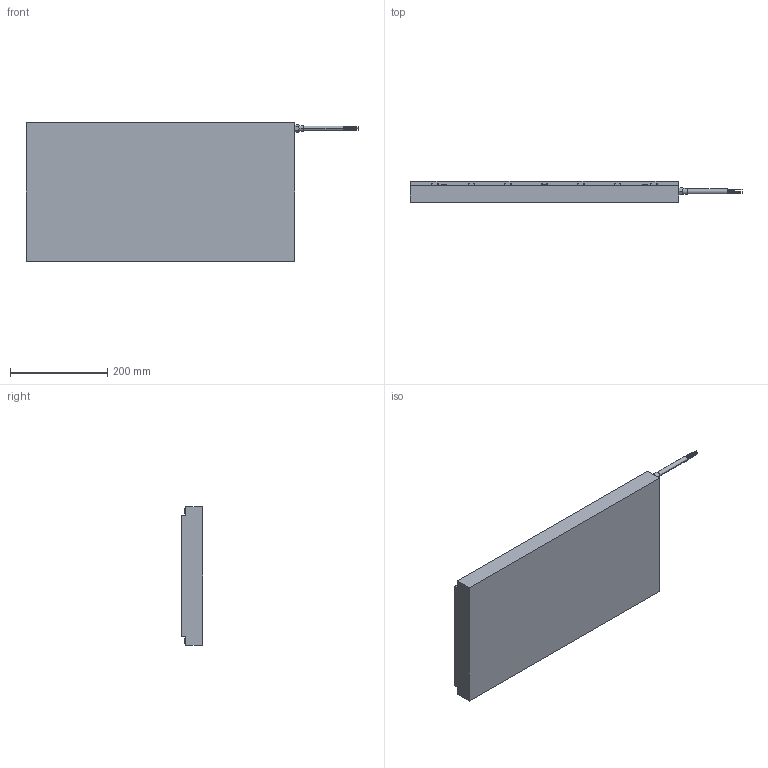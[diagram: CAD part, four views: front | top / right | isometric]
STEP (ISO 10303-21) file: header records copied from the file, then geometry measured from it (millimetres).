
FILE_DESCRIPTION((''),'2;1');
FILE_NAME('IC33_250','2010-03-09T',('brad.winesett'),('Kollmorgen'),'PRO/ENGINEER BY PARAMETRIC TECHNOLOGY CORPORATION, 2006510','PRO/ENGINEER BY PARAMETRIC TECHNOLOGY CORPORATION, 2006510','');
FILE_SCHEMA(('CONFIG_CONTROL_DESIGN'));
Length unit declared in the file: millimetre
Products named in the file (1): IC33_250
Bounding box: 682.2 x 43.3 x 285 mm (x, y, z)
Volume: 6652842.7 mm3; surface area: 475568.6 mm2
Topology: 1 solids, 50 shells, 557 faces, 1404 edges, 887 vertices
Faces by surface type: cylinder 244, plane 215, cone 98
Entity records: 16138 total; most frequent: DIRECTION 3008, CARTESIAN_POINT 2751, ORIENTED_EDGE 2416, EDGE_CURVE 1306, AXIS2_PLACEMENT_3D 1144, VERTEX_POINT 887, VECTOR 720, LINE 720
